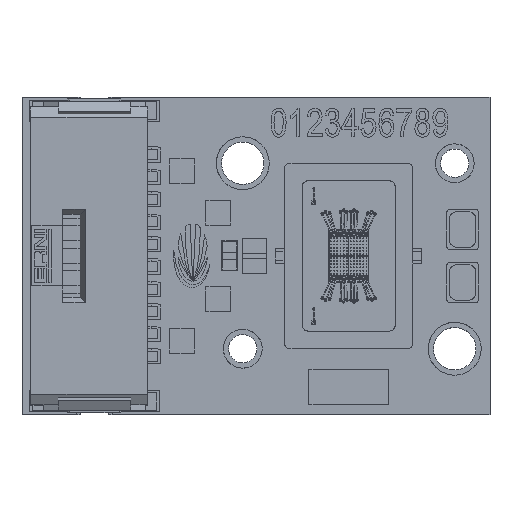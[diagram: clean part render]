
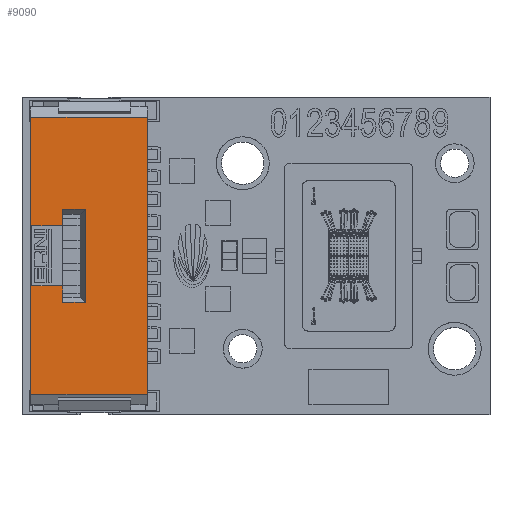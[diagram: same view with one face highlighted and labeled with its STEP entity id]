
A CAD part, top view. The second image highlights one B-rep face of the part: STEP entity #9090.
In plain terms, the highlighted planar face has unit normal (0, 0, 1).
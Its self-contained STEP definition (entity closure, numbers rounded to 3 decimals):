
#9090=ADVANCED_FACE('',(#11378,#9814),#37848,.T.);
#9814=FACE_BOUND('',#13638,.T.);
#11378=FACE_OUTER_BOUND('',#13637,.T.);
#13637=EDGE_LOOP('',(#21275,#21276,#21277,#21278));
#13638=EDGE_LOOP('',(#21279,#21280,#21281,#21282,#21283,#21284,#21285,#21286));
#21275=ORIENTED_EDGE('',*,*,#27235,.T.);
#21276=ORIENTED_EDGE('',*,*,#27236,.T.);
#21277=ORIENTED_EDGE('',*,*,#27237,.T.);
#21278=ORIENTED_EDGE('',*,*,#27238,.T.);
#21279=ORIENTED_EDGE('',*,*,#27246,.T.);
#21280=ORIENTED_EDGE('',*,*,#27239,.T.);
#21281=ORIENTED_EDGE('',*,*,#27240,.T.);
#21282=ORIENTED_EDGE('',*,*,#27241,.T.);
#21283=ORIENTED_EDGE('',*,*,#27242,.T.);
#21284=ORIENTED_EDGE('',*,*,#27243,.T.);
#21285=ORIENTED_EDGE('',*,*,#27244,.T.);
#21286=ORIENTED_EDGE('',*,*,#27245,.T.);
#27235=EDGE_CURVE('',#35511,#35512,#32064,.T.);
#27236=EDGE_CURVE('',#35512,#35513,#32065,.T.);
#27237=EDGE_CURVE('',#35513,#35514,#32066,.T.);
#27238=EDGE_CURVE('',#35514,#35511,#32067,.T.);
#27239=EDGE_CURVE('',#35515,#35516,#32068,.T.);
#27240=EDGE_CURVE('',#35516,#35517,#32069,.T.);
#27241=EDGE_CURVE('',#35517,#35518,#32070,.T.);
#27242=EDGE_CURVE('',#35518,#35519,#32071,.T.);
#27243=EDGE_CURVE('',#35519,#35520,#32072,.T.);
#27244=EDGE_CURVE('',#35520,#35521,#32073,.T.);
#27245=EDGE_CURVE('',#35521,#35522,#32074,.T.);
#27246=EDGE_CURVE('',#35522,#35515,#32075,.T.);
#32064=B_SPLINE_CURVE_WITH_KNOTS('',1,(#77486,#77487),.UNSPECIFIED.,.F.,
 .F.,(2,2),(0.,6.6),.UNSPECIFIED.);
#32065=B_SPLINE_CURVE_WITH_KNOTS('',1,(#77488,#77489),.UNSPECIFIED.,.F.,
 .F.,(2,2),(0.,15.68),.UNSPECIFIED.);
#32066=B_SPLINE_CURVE_WITH_KNOTS('',1,(#77490,#77491),.UNSPECIFIED.,.F.,
 .F.,(2,2),(0.,6.6),.UNSPECIFIED.);
#32067=B_SPLINE_CURVE_WITH_KNOTS('',1,(#77492,#77493),.UNSPECIFIED.,.F.,
 .F.,(2,2),(0.,15.68),.UNSPECIFIED.);
#32068=B_SPLINE_CURVE_WITH_KNOTS('',1,(#77494,#77495),.UNSPECIFIED.,.F.,
 .F.,(2,2),(0.,1.289),.UNSPECIFIED.);
#32069=B_SPLINE_CURVE_WITH_KNOTS('',1,(#77496,#77497),.UNSPECIFIED.,.F.,
 .F.,(2,2),(0.,0.939),.UNSPECIFIED.);
#32070=B_SPLINE_CURVE_WITH_KNOTS('',1,(#77498,#77499),.UNSPECIFIED.,.F.,
 .F.,(2,2),(0.,1.75),.UNSPECIFIED.);
#32071=B_SPLINE_CURVE_WITH_KNOTS('',1,(#77500,#77501),.UNSPECIFIED.,.F.,
 .F.,(2,2),(0.,3.4),.UNSPECIFIED.);
#32072=B_SPLINE_CURVE_WITH_KNOTS('',1,(#77502,#77503),.UNSPECIFIED.,.F.,
 .F.,(2,2),(0.,1.75),.UNSPECIFIED.);
#32073=B_SPLINE_CURVE_WITH_KNOTS('',1,(#77504,#77505),.UNSPECIFIED.,.F.,
 .F.,(2,2),(0.,0.939),.UNSPECIFIED.);
#32074=B_SPLINE_CURVE_WITH_KNOTS('',1,(#77506,#77507),.UNSPECIFIED.,.F.,
 .F.,(2,2),(0.,1.289),.UNSPECIFIED.);
#32075=B_SPLINE_CURVE_WITH_KNOTS('',1,(#77508,#77509),.UNSPECIFIED.,.F.,
 .F.,(2,2),(0.,5.277),.UNSPECIFIED.);
#35511=VERTEX_POINT('',#76730);
#35512=VERTEX_POINT('',#76731);
#35513=VERTEX_POINT('',#76732);
#35514=VERTEX_POINT('',#76733);
#35515=VERTEX_POINT('',#76734);
#35516=VERTEX_POINT('',#76735);
#35517=VERTEX_POINT('',#76736);
#35518=VERTEX_POINT('',#76737);
#35519=VERTEX_POINT('',#76738);
#35520=VERTEX_POINT('',#76739);
#35521=VERTEX_POINT('',#76740);
#35522=VERTEX_POINT('',#76741);
#37848=PLANE('',#39577);
#39577=AXIS2_PLACEMENT_3D('',#76191,#41158,$);
#41158=DIRECTION('',(0.,0.,1.));
#76191=CARTESIAN_POINT('',(-10.74,9.408,3.527));
#76730=CARTESIAN_POINT('',(-11.4,7.84,3.527));
#76731=CARTESIAN_POINT('',(-18.,7.84,3.527));
#76732=CARTESIAN_POINT('',(-18.,-7.84,3.527));
#76733=CARTESIAN_POINT('',(-11.4,-7.84,3.527));
#76734=CARTESIAN_POINT('',(-14.911,-2.639,3.527));
#76735=CARTESIAN_POINT('',(-16.2,-2.639,3.527));
#76736=CARTESIAN_POINT('',(-16.2,-1.7,3.527));
#76737=CARTESIAN_POINT('',(-17.95,-1.7,3.527));
#76738=CARTESIAN_POINT('',(-17.95,1.7,3.527));
#76739=CARTESIAN_POINT('',(-16.2,1.7,3.527));
#76740=CARTESIAN_POINT('',(-16.2,2.639,3.527));
#76741=CARTESIAN_POINT('',(-14.911,2.639,3.527));
#77486=CARTESIAN_POINT('',(-11.4,7.84,3.527));
#77487=CARTESIAN_POINT('',(-18.,7.84,3.527));
#77488=CARTESIAN_POINT('',(-18.,7.84,3.527));
#77489=CARTESIAN_POINT('',(-18.,-7.84,3.527));
#77490=CARTESIAN_POINT('',(-18.,-7.84,3.527));
#77491=CARTESIAN_POINT('',(-11.4,-7.84,3.527));
#77492=CARTESIAN_POINT('',(-11.4,-7.84,3.527));
#77493=CARTESIAN_POINT('',(-11.4,7.84,3.527));
#77494=CARTESIAN_POINT('',(-14.911,-2.639,3.527));
#77495=CARTESIAN_POINT('',(-16.2,-2.639,3.527));
#77496=CARTESIAN_POINT('',(-16.2,-2.639,3.527));
#77497=CARTESIAN_POINT('',(-16.2,-1.7,3.527));
#77498=CARTESIAN_POINT('',(-16.2,-1.7,3.527));
#77499=CARTESIAN_POINT('',(-17.95,-1.7,3.527));
#77500=CARTESIAN_POINT('',(-17.95,-1.7,3.527));
#77501=CARTESIAN_POINT('',(-17.95,1.7,3.527));
#77502=CARTESIAN_POINT('',(-17.95,1.7,3.527));
#77503=CARTESIAN_POINT('',(-16.2,1.7,3.527));
#77504=CARTESIAN_POINT('',(-16.2,1.7,3.527));
#77505=CARTESIAN_POINT('',(-16.2,2.639,3.527));
#77506=CARTESIAN_POINT('',(-16.2,2.639,3.527));
#77507=CARTESIAN_POINT('',(-14.911,2.639,3.527));
#77508=CARTESIAN_POINT('',(-14.911,2.639,3.527));
#77509=CARTESIAN_POINT('',(-14.911,-2.639,3.527));
